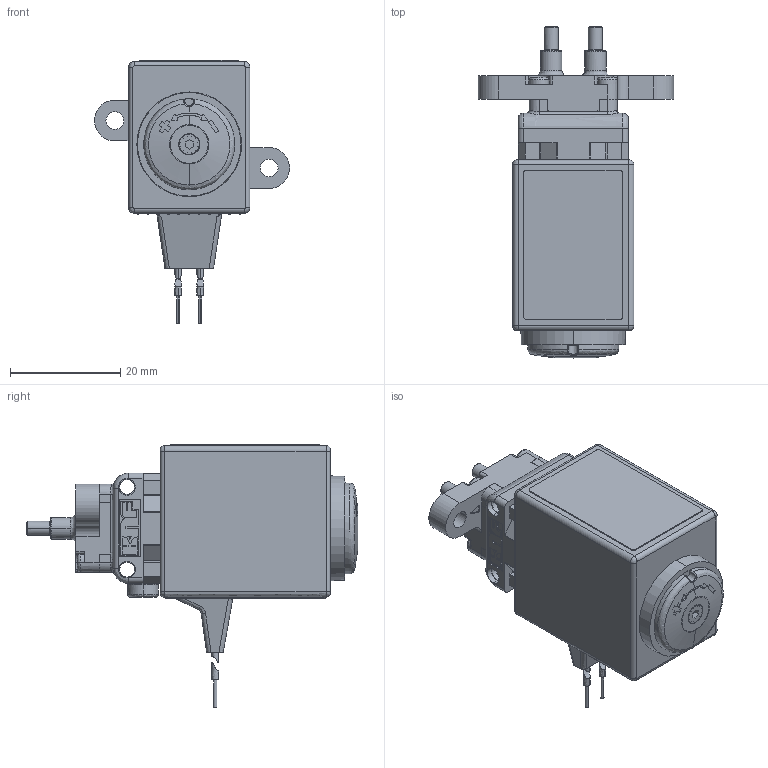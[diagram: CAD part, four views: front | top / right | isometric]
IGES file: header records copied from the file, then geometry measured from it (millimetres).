
Start section:  PTC IGES file: fmm20_dc-p_3-8-02376-01.igs
Global section: file name: fmm20_dc-p_3-8-02376-01.igs; native system: Creo Parametric by Parametric Technology Corporation; preprocessor: 2015200; author: LuternauerR; organization: Unknown; date: 20160715.150403; units: millimetre
Bounding box: 35.4 x 60.2 x 47.7 mm (x, y, z)
Volume: 25695.7 mm3; surface area: 7398.7 mm2
Topology: 3 solids, 3 shells, 1026 faces, 2607 edges, 1640 vertices
Faces by surface type: revolution 574, bspline 448, extrusion 4
